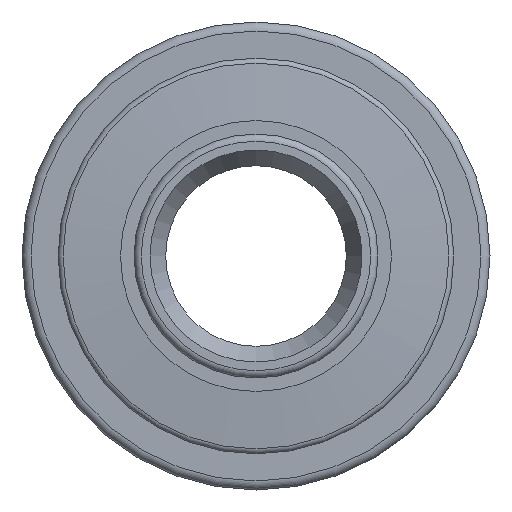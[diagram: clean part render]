
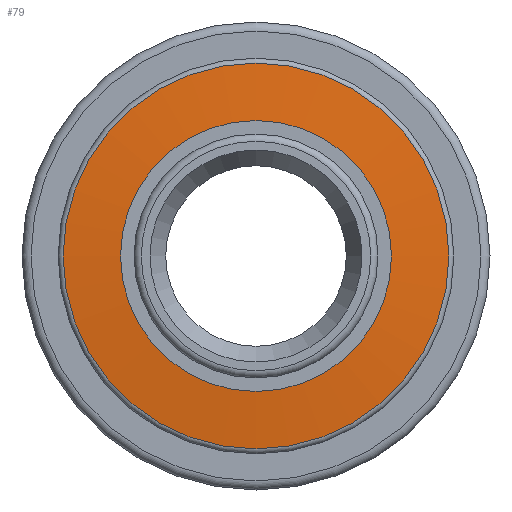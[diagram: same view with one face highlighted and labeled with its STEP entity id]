
A CAD part, front view. The second image highlights one B-rep face of the part: STEP entity #79.
In plain terms, the highlighted conical face has half-angle 85 degrees and reference radius 8.99 mm.
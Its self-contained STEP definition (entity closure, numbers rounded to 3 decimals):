
#79=ADVANCED_FACE('',(#436,#438),#440,.T.);
#436=FACE_OUTER_BOUND('',#437,.T.);
#437=EDGE_LOOP('',(#925));
#438=FACE_BOUND('',#439,.T.);
#439=EDGE_LOOP('',(#926,#927));
#440=CONICAL_SURFACE('',#441,8.99,1.484);
#441=AXIS2_PLACEMENT_3D('',#442,#443,#444);
#442=CARTESIAN_POINT('',(0.,-6.171,0.));
#443=DIRECTION('',(0.,1.,0.));
#444=DIRECTION('',(0.,0.,-1.));
#925=ORIENTED_EDGE('',*,*,#1077,.T.);
#926=ORIENTED_EDGE('',*,*,#1072,.F.);
#927=ORIENTED_EDGE('',*,*,#1075,.F.);
#1072=EDGE_CURVE('',#1210,#1211,#1212,.T.);
#1075=EDGE_CURVE('',#1211,#1210,#1215,.T.);
#1077=EDGE_CURVE('',#1218,#1218,#1219,.T.);
#1210=VERTEX_POINT('',#1538);
#1211=VERTEX_POINT('',#1539);
#1212=CIRCLE('',#1540,7.304);
#1215=CIRCLE('',#1552,7.304);
#1218=VERTEX_POINT('',#1561);
#1219=CIRCLE('',#1562,10.676);
#1538=CARTESIAN_POINT('',(-7.304,-6.319,0.));
#1539=CARTESIAN_POINT('',(0.,-6.319,7.304));
#1540=AXIS2_PLACEMENT_3D('',#1541,#1542,#1543);
#1541=CARTESIAN_POINT('',(0.,-6.319,0.));
#1542=DIRECTION('',(0.,-1.,0.));
#1543=DIRECTION('',(-1.,0.,0.));
#1552=AXIS2_PLACEMENT_3D('',#1553,#1554,#1555);
#1553=CARTESIAN_POINT('',(0.,-6.319,0.));
#1554=DIRECTION('',(0.,-1.,0.));
#1555=DIRECTION('',(0.,0.,1.));
#1561=CARTESIAN_POINT('',(0.,-6.024,10.676));
#1562=AXIS2_PLACEMENT_3D('',#1563,#1564,#1565);
#1563=CARTESIAN_POINT('',(0.,-6.024,0.));
#1564=DIRECTION('',(0.,-1.,0.));
#1565=DIRECTION('',(0.,0.,1.));
